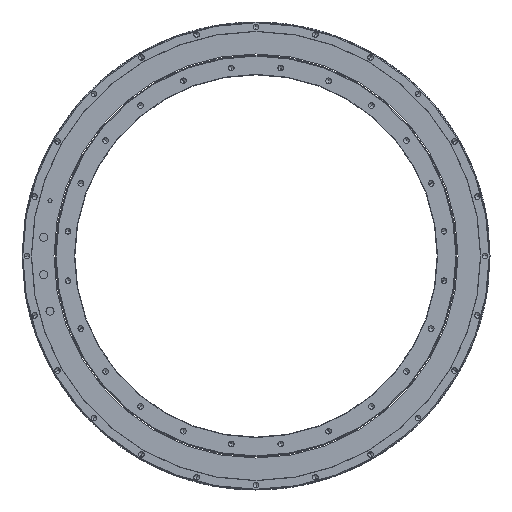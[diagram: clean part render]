
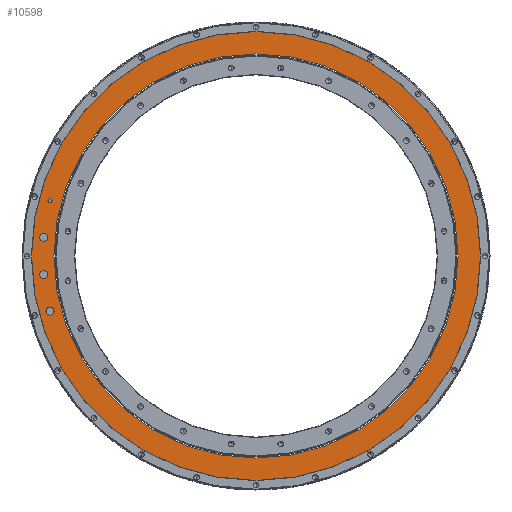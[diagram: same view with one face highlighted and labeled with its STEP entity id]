
A CAD part, left-side view. The second image highlights one B-rep face of the part: STEP entity #10598.
In plain terms, the highlighted planar face has unit normal (-1, 0, 0).
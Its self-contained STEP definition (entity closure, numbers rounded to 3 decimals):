
#10177=CARTESIAN_POINT('',(-115.,0.,0.));
#10178=DIRECTION('',(-1.,0.,0.));
#10179=DIRECTION('',(0.,1.,0.));
#10180=AXIS2_PLACEMENT_3D('',#10177,#10178,#10179);
#10182=CARTESIAN_POINT('',(-115.,0.,0.));
#10183=DIRECTION('',(1.,0.,0.));
#10184=DIRECTION('',(0.,1.,0.));
#10185=AXIS2_PLACEMENT_3D('',#10182,#10183,#10184);
#10187=CARTESIAN_POINT('',(-115.,0.,0.));
#10188=DIRECTION('',(-1.,0.,0.));
#10189=DIRECTION('',(0.,1.,0.));
#10190=AXIS2_PLACEMENT_3D('',#10187,#10188,#10189);
#10192=CARTESIAN_POINT('',(-115.,0.,0.));
#10193=DIRECTION('',(1.,0.,0.));
#10194=DIRECTION('',(0.,1.,0.));
#10195=AXIS2_PLACEMENT_3D('',#10192,#10193,#10194);
#10197=CARTESIAN_POINT('',(-115.,255.294,-68.406));
#10198=DIRECTION('',(-1.,0.,0.));
#10199=DIRECTION('',(0.,0.,1.));
#10200=AXIS2_PLACEMENT_3D('',#10197,#10198,#10199);
#10202=CARTESIAN_POINT('',(-115.,255.294,-68.406));
#10203=DIRECTION('',(-1.,0.,0.));
#10204=DIRECTION('',(0.,0.,-1.));
#10205=AXIS2_PLACEMENT_3D('',#10202,#10203,#10204);
#10207=CARTESIAN_POINT('',(-115.,255.294,68.406));
#10208=DIRECTION('',(-1.,0.,0.));
#10209=DIRECTION('',(0.,0.,1.));
#10210=AXIS2_PLACEMENT_3D('',#10207,#10208,#10209);
#10212=CARTESIAN_POINT('',(-115.,255.294,68.406));
#10213=DIRECTION('',(-1.,0.,0.));
#10214=DIRECTION('',(0.,0.,-1.));
#10215=AXIS2_PLACEMENT_3D('',#10212,#10213,#10214);
#10217=CARTESIAN_POINT('',(-115.,263.294,23.035));
#10218=DIRECTION('',(-1.,0.,0.));
#10219=DIRECTION('',(0.,0.,1.));
#10220=AXIS2_PLACEMENT_3D('',#10217,#10218,#10219);
#10222=CARTESIAN_POINT('',(-115.,263.294,23.035));
#10223=DIRECTION('',(-1.,0.,0.));
#10224=DIRECTION('',(0.,0.,-1.));
#10225=AXIS2_PLACEMENT_3D('',#10222,#10223,#10224);
#10227=CARTESIAN_POINT('',(-115.,263.294,-23.035));
#10228=DIRECTION('',(-1.,0.,0.));
#10229=DIRECTION('',(0.,0.,1.));
#10230=AXIS2_PLACEMENT_3D('',#10227,#10228,#10229);
#10232=CARTESIAN_POINT('',(-115.,263.294,-23.035));
#10233=DIRECTION('',(-1.,0.,0.));
#10234=DIRECTION('',(0.,0.,-1.));
#10235=AXIS2_PLACEMENT_3D('',#10232,#10233,#10234);
#10386=CARTESIAN_POINT('',(-115.,278.2,0.));
#10388=VERTEX_POINT('',#10386);
#10389=CARTESIAN_POINT('',(-115.,250.4,0.));
#10391=VERTEX_POINT('',#10389);
#10406=CARTESIAN_POINT('',(-115.,-278.2,0.));
#10408=VERTEX_POINT('',#10406);
#10409=CARTESIAN_POINT('',(-115.,-250.4,0.));
#10411=VERTEX_POINT('',#10409);
#10441=CARTESIAN_POINT('',(-115.,255.294,-63.406));
#10442=CARTESIAN_POINT('',(-115.,255.294,-73.406));
#10443=VERTEX_POINT('',#10441);
#10444=VERTEX_POINT('',#10442);
#10445=CARTESIAN_POINT('',(-115.,255.294,70.906));
#10446=CARTESIAN_POINT('',(-115.,255.294,65.906));
#10447=VERTEX_POINT('',#10445);
#10448=VERTEX_POINT('',#10446);
#10449=CARTESIAN_POINT('',(-115.,263.294,28.035));
#10450=CARTESIAN_POINT('',(-115.,263.294,18.035));
#10451=VERTEX_POINT('',#10449);
#10452=VERTEX_POINT('',#10450);
#10453=CARTESIAN_POINT('',(-115.,263.294,-18.035));
#10454=CARTESIAN_POINT('',(-115.,263.294,-28.035));
#10455=VERTEX_POINT('',#10453);
#10456=VERTEX_POINT('',#10454);
#10559=CARTESIAN_POINT('',(-115.,0.,0.));
#10560=DIRECTION('',(1.,0.,0.));
#10561=DIRECTION('',(0.,-1.,0.));
#10562=AXIS2_PLACEMENT_3D('',#10559,#10560,#10561);
#10563=PLANE('',#10562);
#10565=ORIENTED_EDGE('',*,*,#10564,.F.);
#10567=ORIENTED_EDGE('',*,*,#10566,.T.);
#10568=EDGE_LOOP('',(#10565,#10567));
#10569=FACE_OUTER_BOUND('',#10568,.F.);
#10570=ORIENTED_EDGE('',*,*,#10552,.F.);
#10571=ORIENTED_EDGE('',*,*,#10541,.T.);
#10572=EDGE_LOOP('',(#10570,#10571));
#10573=FACE_BOUND('',#10572,.F.);
#10575=ORIENTED_EDGE('',*,*,#10574,.T.);
#10577=ORIENTED_EDGE('',*,*,#10576,.T.);
#10578=EDGE_LOOP('',(#10575,#10577));
#10579=FACE_BOUND('',#10578,.F.);
#10581=ORIENTED_EDGE('',*,*,#10580,.T.);
#10583=ORIENTED_EDGE('',*,*,#10582,.T.);
#10584=EDGE_LOOP('',(#10581,#10583));
#10585=FACE_BOUND('',#10584,.F.);
#10587=ORIENTED_EDGE('',*,*,#10586,.T.);
#10589=ORIENTED_EDGE('',*,*,#10588,.T.);
#10590=EDGE_LOOP('',(#10587,#10589));
#10591=FACE_BOUND('',#10590,.F.);
#10593=ORIENTED_EDGE('',*,*,#10592,.T.);
#10595=ORIENTED_EDGE('',*,*,#10594,.T.);
#10596=EDGE_LOOP('',(#10593,#10595));
#10597=FACE_BOUND('',#10596,.F.);
#10598=ADVANCED_FACE('',(#10569,#10573,#10579,#10585,#10591,#10597),#10563,.F.);
#10181=CIRCLE('',#10180,250.4);
#10186=CIRCLE('',#10185,250.4);
#10191=CIRCLE('',#10190,278.2);
#10196=CIRCLE('',#10195,278.2);
#10201=CIRCLE('',#10200,5.);
#10206=CIRCLE('',#10205,5.);
#10211=CIRCLE('',#10210,2.5);
#10216=CIRCLE('',#10215,2.5);
#10221=CIRCLE('',#10220,5.);
#10226=CIRCLE('',#10225,5.);
#10231=CIRCLE('',#10230,5.);
#10236=CIRCLE('',#10235,5.);
#10541=EDGE_CURVE('',#10391,#10411,#10181,.T.);
#10552=EDGE_CURVE('',#10391,#10411,#10186,.T.);
#10564=EDGE_CURVE('',#10388,#10408,#10191,.T.);
#10566=EDGE_CURVE('',#10388,#10408,#10196,.T.);
#10574=EDGE_CURVE('',#10443,#10444,#10201,.T.);
#10576=EDGE_CURVE('',#10444,#10443,#10206,.T.);
#10580=EDGE_CURVE('',#10447,#10448,#10211,.T.);
#10582=EDGE_CURVE('',#10448,#10447,#10216,.T.);
#10586=EDGE_CURVE('',#10451,#10452,#10221,.T.);
#10588=EDGE_CURVE('',#10452,#10451,#10226,.T.);
#10592=EDGE_CURVE('',#10455,#10456,#10231,.T.);
#10594=EDGE_CURVE('',#10456,#10455,#10236,.T.);
